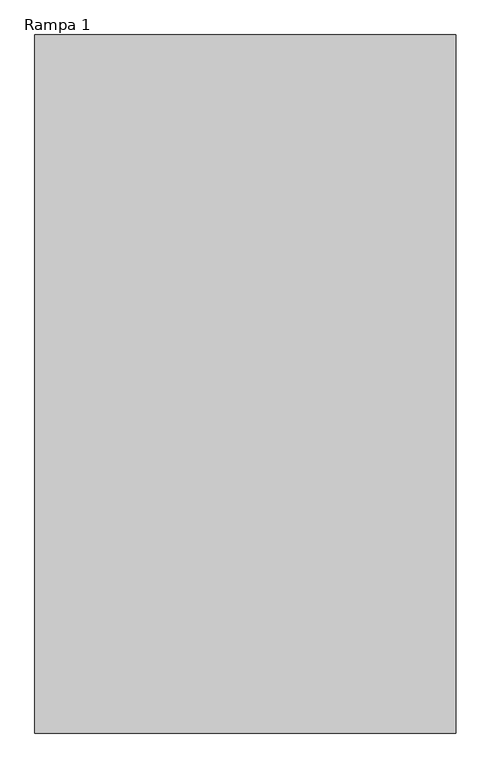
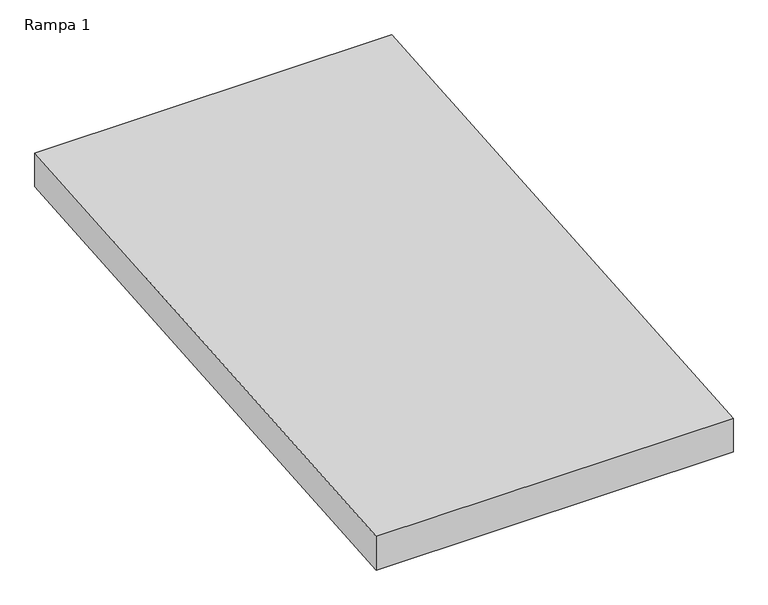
"""IFC4 building model written with IfcOpenShell, lengths in millimetres: ramp geometry, Rampa 1."""

from ifc_helpers import new_model, si_unit, frame, origin, place, context, project, spatial, polyline, outline, extrude, source, transform, mapped, element, save


def rampa_1_870051f9(model_context):
    return source(origin(), model_context, "Body", "SweptSolid", [
        extrude(outline(polyline([(-163.8672855, -200.0), (2336.1327145, 0.0), (2336.1327145, -150.4792344), (-163.8672855, -350.4792344), (-163.8672855, -200.0)])), frame((15644.8126262, 0.0, 0.0), z_axis=(1.0, 0.0, 0.0), x_axis=(0.0, 1.0, 0.0)), (0.0, 0.0, 1.0), 1509.4814948),
    ])


if __name__ == "__main__":
    model = new_model("IFC4")
    model_context = context("Model", 3, world=origin())
    ifc_project = project(units=[si_unit("LENGTHUNIT", "METRE", prefix="MILLI")], contexts=[model_context])
    site = spatial("IfcSite", under=ifc_project)
    building = spatial("IfcBuilding", under=site)
    placement = place(None, origin())
    rampa_1_shape = rampa_1_870051f9(model_context)
    element("IfcRamp", 1, ObjectType="Rampa 1", at=placement, inside=building, context=model_context, shape_type="MappedRepresentation", body=[
        mapped(rampa_1_shape, transform((0.0, 0.0, 0.0), x_axis=(1.0, 0.0, 0.0), y_axis=(0.0, 1.0, 0.0), z_axis=(0.0, 0.0, 1.0))),
    ])
    save(model, "model.ifc")
